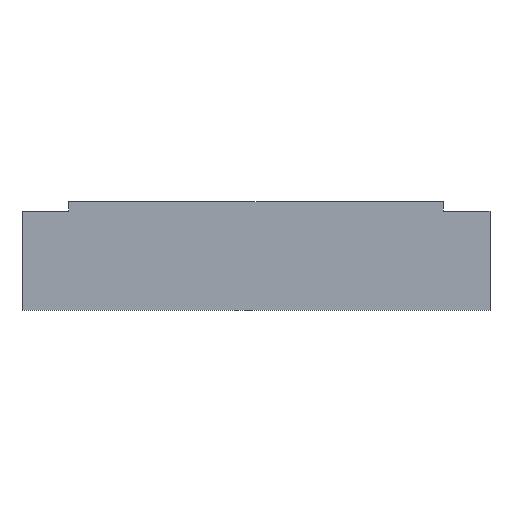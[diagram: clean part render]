
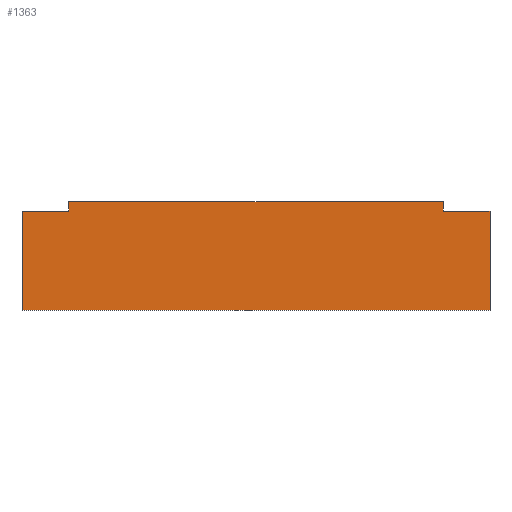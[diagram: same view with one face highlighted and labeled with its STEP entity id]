
A CAD part, left-side view. The second image highlights one B-rep face of the part: STEP entity #1363.
In plain terms, the highlighted planar face has unit normal (-1, 0, 0).
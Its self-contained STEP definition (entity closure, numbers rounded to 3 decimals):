
#13 = VECTOR ( 'NONE', #236, 1000. ) ;
#42 = CARTESIAN_POINT ( 'NONE',  ( -28., 50., 21.2 ) ) ;
#44 = LINE ( 'NONE', #1392, #1772 ) ;
#45 = VERTEX_POINT ( 'NONE', #1855 ) ;
#50 = CARTESIAN_POINT ( 'NONE',  ( -28., -50., 21.2 ) ) ;
#100 = DIRECTION ( 'NONE',  ( 0., -1., 0. ) ) ;
#133 = ORIENTED_EDGE ( 'NONE', *, *, #767, .F. ) ;
#148 = VERTEX_POINT ( 'NONE', #50 ) ;
#180 = EDGE_CURVE ( 'NONE', #148, #1974, #1210, .T. ) ;
#204 = VECTOR ( 'NONE', #383, 1000. ) ;
#209 = ORIENTED_EDGE ( 'NONE', *, *, #612, .T. ) ;
#219 = LINE ( 'NONE', #777, #699 ) ;
#236 = DIRECTION ( 'NONE',  ( 0., 0., -1. ) ) ;
#289 = FACE_OUTER_BOUND ( 'NONE', #420, .T. ) ;
#318 = ORIENTED_EDGE ( 'NONE', *, *, #1595, .F. ) ;
#368 = VERTEX_POINT ( 'NONE', #841 ) ;
#378 = DIRECTION ( 'NONE',  ( 0., 0., -1. ) ) ;
#383 = DIRECTION ( 'NONE',  ( 0., -1., 0. ) ) ;
#420 = EDGE_LOOP ( 'NONE', ( #2150, #1204, #133, #318, #978, #2119, #2073, #209 ) ) ;
#565 = VECTOR ( 'NONE', #1675, 1000. ) ;
#573 = EDGE_CURVE ( 'NONE', #1451, #1693, #651, .T. ) ;
#612 = EDGE_CURVE ( 'NONE', #1639, #368, #44, .T. ) ;
#651 = LINE ( 'NONE', #984, #565 ) ;
#685 = LINE ( 'NONE', #1218, #204 ) ;
#699 = VECTOR ( 'NONE', #1949, 1000. ) ;
#727 = VECTOR ( 'NONE', #876, 1000. ) ;
#767 = EDGE_CURVE ( 'NONE', #1059, #148, #685, .T. ) ;
#777 = CARTESIAN_POINT ( 'NONE',  ( -28., -40., 23.2 ) ) ;
#786 = DIRECTION ( 'NONE',  ( 0., -1., 0. ) ) ;
#822 = VECTOR ( 'NONE', #786, 1000. ) ;
#841 = CARTESIAN_POINT ( 'NONE',  ( -28., 50., 0. ) ) ;
#876 = DIRECTION ( 'NONE',  ( 0., -1., 0. ) ) ;
#886 = PLANE ( 'NONE',  #2061 ) ;
#891 = CARTESIAN_POINT ( 'NONE',  ( -28., 50., 0. ) ) ;
#899 = CARTESIAN_POINT ( 'NONE',  ( -28., -50., 0. ) ) ;
#910 = EDGE_CURVE ( 'NONE', #1639, #1693, #1951, .T. ) ;
#978 = ORIENTED_EDGE ( 'NONE', *, *, #1140, .F. ) ;
#984 = CARTESIAN_POINT ( 'NONE',  ( -28., 40., 23.2 ) ) ;
#1059 = VERTEX_POINT ( 'NONE', #1959 ) ;
#1140 = EDGE_CURVE ( 'NONE', #1451, #45, #1336, .T. ) ;
#1204 = ORIENTED_EDGE ( 'NONE', *, *, #180, .F. ) ;
#1210 = LINE ( 'NONE', #2055, #13 ) ;
#1218 = CARTESIAN_POINT ( 'NONE',  ( -28., 50., 21.2 ) ) ;
#1283 = CARTESIAN_POINT ( 'NONE',  ( -28., 50., 21.2 ) ) ;
#1309 = CARTESIAN_POINT ( 'NONE',  ( -28., 40., 21.2 ) ) ;
#1336 = LINE ( 'NONE', #2114, #1938 ) ;
#1363 = ADVANCED_FACE ( 'NONE', ( #289 ), #886, .F. ) ;
#1386 = DIRECTION ( 'NONE',  ( 0., 1., 0. ) ) ;
#1392 = CARTESIAN_POINT ( 'NONE',  ( -28., 50., 21.2 ) ) ;
#1417 = CARTESIAN_POINT ( 'NONE',  ( -28., 40., 23.2 ) ) ;
#1451 = VERTEX_POINT ( 'NONE', #1417 ) ;
#1595 = EDGE_CURVE ( 'NONE', #45, #1059, #219, .T. ) ;
#1622 = CARTESIAN_POINT ( 'NONE',  ( -28., 50., 21.2 ) ) ;
#1639 = VERTEX_POINT ( 'NONE', #1283 ) ;
#1675 = DIRECTION ( 'NONE',  ( 0., 0., -1. ) ) ;
#1693 = VERTEX_POINT ( 'NONE', #1309 ) ;
#1772 = VECTOR ( 'NONE', #378, 1000. ) ;
#1855 = CARTESIAN_POINT ( 'NONE',  ( -28., -40., 23.2 ) ) ;
#1889 = EDGE_CURVE ( 'NONE', #368, #1974, #2143, .T. ) ;
#1938 = VECTOR ( 'NONE', #100, 1000. ) ;
#1949 = DIRECTION ( 'NONE',  ( 0., 0., -1. ) ) ;
#1951 = LINE ( 'NONE', #1622, #822 ) ;
#1959 = CARTESIAN_POINT ( 'NONE',  ( -28., -40., 21.2 ) ) ;
#1974 = VERTEX_POINT ( 'NONE', #899 ) ;
#2039 = DIRECTION ( 'NONE',  ( 1., 0., 0. ) ) ;
#2055 = CARTESIAN_POINT ( 'NONE',  ( -28., -50., 21.2 ) ) ;
#2061 = AXIS2_PLACEMENT_3D ( 'NONE', #42, #2039, #1386 ) ;
#2073 = ORIENTED_EDGE ( 'NONE', *, *, #910, .F. ) ;
#2114 = CARTESIAN_POINT ( 'NONE',  ( -28., 40., 23.2 ) ) ;
#2119 = ORIENTED_EDGE ( 'NONE', *, *, #573, .T. ) ;
#2143 = LINE ( 'NONE', #891, #727 ) ;
#2150 = ORIENTED_EDGE ( 'NONE', *, *, #1889, .T. ) ;
